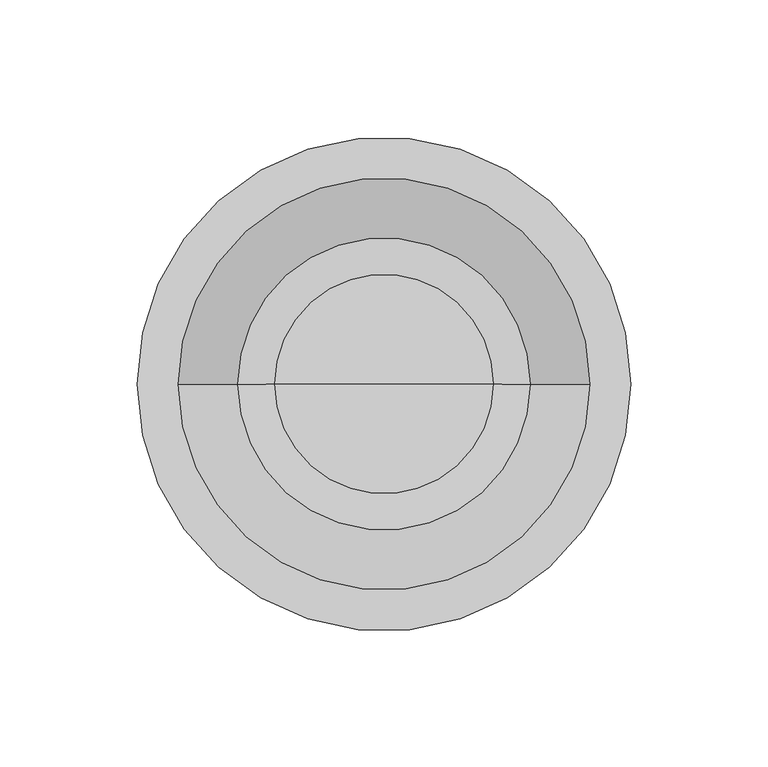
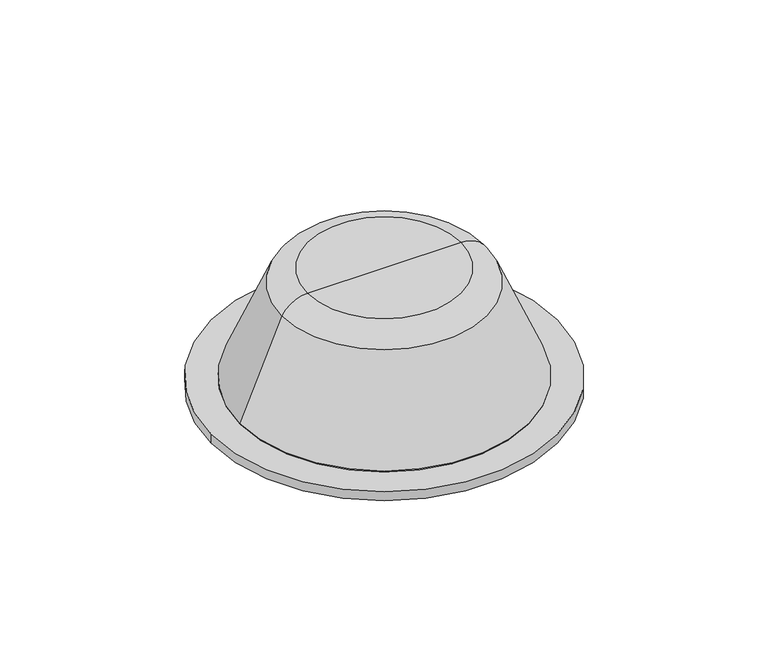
"""IFC4 building model written with IfcOpenShell, lengths in millimetres: proxy geometry, ZYR_08.04 Altaveu Sostre Encastat : Altaveu Encastat 01."""

from ifc_helpers import new_model, si_unit, point, frame, origin, origin_with_axes, origin_2d, place, context, project, spatial, polyline, circle_curve, ellipse_curve, trimmed, segment, composite_curve, outline, extrude, source, transform, mapped, element, save
from ifc_brep_helpers import plane_surface, cylinder_surface, revolved_surface, advanced_brep


def communication_devices_9959d311(model_context):
    return source(origin(), model_context, "Body", "SolidModel", [
        extrude(outline(composite_curve([segment(trimmed(circle_curve(origin_2d(), 90.0), [point((-90.0, 0.0))], [point((90.0, 0.0))], False, "CARTESIAN"), True, "CONTINUOUS"), segment(trimmed(circle_curve(origin_2d(), 90.0), [point((90.0, 0.0))], [point((-90.0, 0.0))], False, "CARTESIAN"), True, "CONTINUOUS")], self_intersect=False)), origin_with_axes(), (0.0, 0.0, 1.0), 5.0),
        advanced_brep(
        [(53.2462726, 0.0, 57.3522609), (-53.2462726, 0.0, 57.3522609), (-39.9997457, 0.0, 65.0), (39.9997457, 0.0, 65.0), (75.0, 0.0, 5.8289677), (-75.0, 0.0, 5.8289677), (0.0, 0.0, 5.0), (-75.0, 0.0, 5.0), (75.0, 0.0, 5.0), (0.0, 0.0, 65.0)],
        [
            (0, 1, circle_curve(frame((0.0, 0.0, 57.3522609), z_axis=(0.0, 0.0, 1.0), x_axis=(-1.0, 0.0, 0.0)), 53.2462726)),
            (1, 2, circle_curve(frame((-39.9997457, 0.0, 49.7040814), z_axis=(0.0, 1.0, 0.0), x_axis=(1.0, 0.0, 0.0)), 15.2959186)),
            (2, 3, circle_curve(frame((0.0, 0.0, 65.0), z_axis=(0.0, 0.0, -1.0), x_axis=(-1.0, 0.0, 0.0)), 39.9997457)),
            (3, 0, circle_curve(frame((39.9997457, 0.0, 49.7040814), z_axis=(0.0, 1.0, 0.0), x_axis=(-1.0, 0.0, 0.0)), 15.2959186)),
            (1, 0, circle_curve(frame((0.0, 0.0, 57.3522609), z_axis=(0.0, 0.0, 1.0), x_axis=(-1.0, 0.0, 0.0)), 53.2462726)),
            (3, 2, circle_curve(frame((0.0, 0.0, 65.0), z_axis=(0.0, 0.0, -1.0), x_axis=(-1.0, 0.0, 0.0)), 39.9997457)),
            (4, 5, circle_curve(frame((0.0, 0.0, 5.8289677), z_axis=(0.0, 0.0, 1.0), x_axis=(-1.0, 0.0, 0.0)), 75.0)),
            (5, 1),
            (0, 4),
            (5, 4, circle_curve(frame((0.0, 0.0, 5.8289677), z_axis=(0.0, 0.0, 1.0), x_axis=(-1.0, 0.0, 0.0)), 75.0)),
            (6, 7),
            (7, 8, circle_curve(frame((0.0, 0.0, 5.0), z_axis=(0.0, 0.0, -1.0), x_axis=(-1.0, 0.0, 0.0)), 75.0)),
            (8, 6),
            (8, 7, circle_curve(frame((0.0, 0.0, 5.0), z_axis=(0.0, 0.0, -1.0), x_axis=(-1.0, 0.0, 0.0)), 75.0)),
            (2, 9),
            (9, 3),
            (7, 5),
            (4, 8),
        ],
        [
            revolved_surface(trimmed(ellipse_curve(frame((-39.9997457, 0.0, 49.7040814), z_axis=(0.0, -1.0, 0.0), x_axis=(1.0, 0.0, 0.0)), 15.2959186, 15.2959186), [point((-39.9997457, 0.0, 65.0))], [point((-53.2462726, 0.0, 57.3522609))], True, "CARTESIAN"), (0.0, 0.0, 65.0), (0.0, 0.0, -1.0)),
            revolved_surface(polyline([(-53.2462726, 0.0, 57.3522609), (-75.0, 0.0, 5.8289677)]), (0.0, 0.0, 65.0), (0.0, 0.0, -1.0)),
            plane_surface(frame((0.0, 0.0, 5.0), z_axis=(0.0, 0.0, -1.0), x_axis=(-1.0, 0.0, 0.0))),
            plane_surface(frame((0.0, 0.0, 65.0), z_axis=(0.0, 0.0, 1.0), x_axis=(-1.0, 0.0, 0.0))),
            cylinder_surface(frame((0.0, 0.0, 65.0), z_axis=(0.0, 0.0, -1.0), x_axis=(-1.0, 0.0, 0.0)), 75.0),
        ],
        [
            (0, [[1, 2, 3, 4]]),
            (0, [[5, -4, 6, -2]]),
            (1, [[7, 8, -1, 9]]),
            (1, [[10, -9, -5, -8]]),
            (2, [[11, 12, 13]]),
            (2, [[-13, 14, -11]]),
            (3, [[-3, 15, 16]]),
            (3, [[-6, -16, -15]]),
            (4, [[-12, 17, -7, 18]]),
            (4, [[-14, -18, -10, -17]]),
        ],
    ),
        extrude(outline(composite_curve([segment(trimmed(circle_curve(origin_2d(), 77.5), [point((-77.5, 0.0))], [point((77.5, 0.0))], False, "CARTESIAN"), True, "CONTINUOUS"), segment(trimmed(circle_curve(origin_2d(), 77.5), [point((77.5, 0.0))], [point((-77.5, 0.0))], False, "CARTESIAN"), True, "CONTINUOUS")], self_intersect=False)), frame((0.0, 0.0, -3.0), z_axis=(0.0, 0.0, 1.0), x_axis=(1.0, 0.0, 0.0)), (0.0, 0.0, 1.0), 3.0),
    ])


if __name__ == "__main__":
    model = new_model("IFC4")
    model_context = context("Model", 3, world=origin())
    ifc_project = project(units=[si_unit("LENGTHUNIT", "METRE", prefix="MILLI")], contexts=[model_context])
    site = spatial("IfcSite", under=ifc_project)
    building = spatial("IfcBuilding", under=site)
    placement = place(None, origin())
    communication_devices_shape = communication_devices_9959d311(model_context)
    element("IfcBuildingElementProxy", 1, Name="ZYR_08.04 Altaveu Sostre Encastat : Altaveu Encastat 01", ObjectType="ZYR_08.04 Altaveu Sostre Encastat : Altaveu Encastat 01", at=placement, inside=building, context=model_context, shape_type="MappedRepresentation", body=[
        mapped(communication_devices_shape, transform((0.0, 0.0, 0.0), x_axis=(1.0, 0.0, 0.0), y_axis=(0.0, 1.0, 0.0), z_axis=(0.0, 0.0, 1.0))),
    ])
    save(model, "model.ifc")
